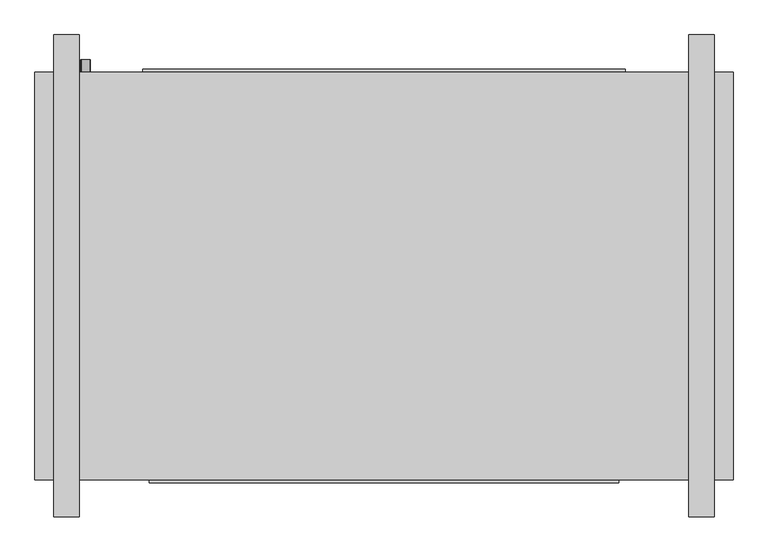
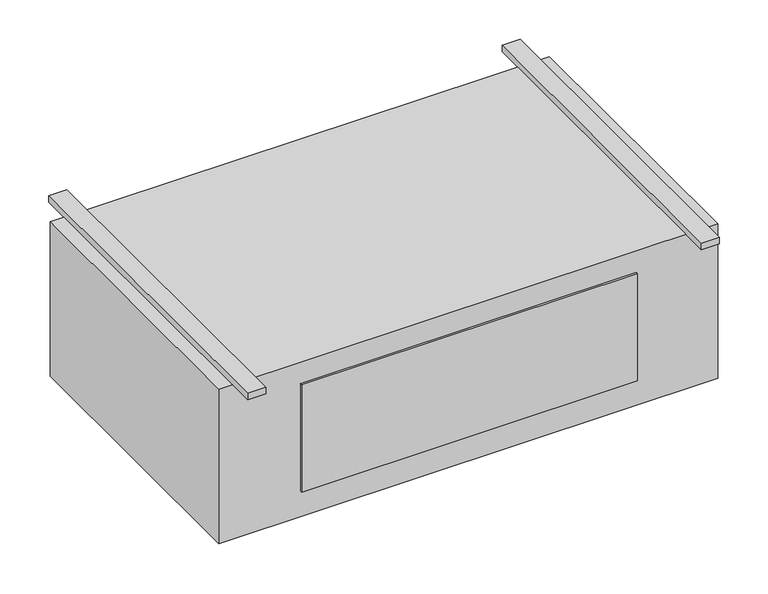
"""IFC4 building model written with IfcOpenShell, lengths in millimetres: proxy geometry, Exposed_High_Capacity_Horizontal_Cabinet_Fan_Coil_Unit_-_42DFA_-_CARRIER_-_2-Pipe_Cool-EHeat_LH_2022 : Size 16 - 277v/60Hz/1Ph - 6 Row 12.0kW."""

from ifc_helpers import new_model, si_unit, point, frame, frame_2d, origin, origin_with_axes, place, context, project, spatial, polyline, circle_curve, trimmed, segment, composite_curve, outline, extrude, source, transform, mapped, element, save


def mechanical_equipment_579c9824(model_context):
    return source(origin(), model_context, "Body", "SweptSolid", [
        extrude(outline(composite_curve([segment(trimmed(circle_curve(frame_2d((-406.4, -444.5)), 9.525), [point((-406.4, -454.025))], [point((-406.4, -434.975))], False, "CARTESIAN"), True, "CONTINUOUS"), segment(trimmed(circle_curve(frame_2d((-406.4, -444.5)), 9.525), [point((-406.4, -434.975))], [point((-406.4, -454.025))], False, "CARTESIAN"), True, "CONTINUOUS")], self_intersect=False)), frame((0.0, 169.8625, 0.0), z_axis=(0.0, 1.0, 0.0), x_axis=(0.0, 0.0, 1.0)), (0.0, 0.0, 1.0), 25.4),
        extrude(outline(composite_curve([segment(trimmed(circle_curve(frame_2d((-330.2, -444.5)), 7.9375), [point((-330.2, -452.4375))], [point((-330.2, -436.5625))], False, "CARTESIAN"), True, "CONTINUOUS"), segment(trimmed(circle_curve(frame_2d((-330.2, -444.5)), 7.9375), [point((-330.2, -436.5625))], [point((-330.2, -452.4375))], False, "CARTESIAN"), True, "CONTINUOUS")], self_intersect=False)), frame((0.0, 169.8625, 0.0), z_axis=(0.0, 1.0, 0.0), x_axis=(0.0, 0.0, 1.0)), (0.0, 0.0, 1.0), 25.4),
        extrude(outline(composite_curve([segment(trimmed(circle_curve(frame_2d((-254.0, -444.5)), 7.9375), [point((-254.0, -452.4375))], [point((-254.0, -436.5625))], False, "CARTESIAN"), True, "CONTINUOUS"), segment(trimmed(circle_curve(frame_2d((-254.0, -444.5)), 7.9375), [point((-254.0, -436.5625))], [point((-254.0, -452.4375))], False, "CARTESIAN"), True, "CONTINUOUS")], self_intersect=False)), frame((0.0, 169.8625, 0.0), z_axis=(0.0, 1.0, 0.0), x_axis=(0.0, 0.0, 1.0)), (0.0, 0.0, 1.0), 25.4),
        extrude(outline(polyline([(850.9, 169.8625), (850.9, -646.1125), (-546.1, -646.1125), (-546.1, 169.8625), (850.9, 169.8625)])), frame((0.0, 0.0, -457.2), z_axis=(0.0, 0.0, 1.0), x_axis=(1.0, 0.0, 0.0)), (0.0, 0.0, 1.0), 457.2),
        extrude(outline(polyline([(-330.2, 176.2125), (635.0, 176.2125), (635.0, 169.8625), (-330.2, 169.8625), (-330.2, 176.2125)])), frame((0.0, 0.0, -381.0), z_axis=(0.0, 0.0, 1.0), x_axis=(1.0, 0.0, 0.0)), (0.0, 0.0, 1.0), 355.6),
        extrude(outline(polyline([(-457.2, 244.475), (-457.2, -720.725), (-508.0, -720.725), (-508.0, 244.475), (-457.2, 244.475)])), origin_with_axes(), (0.0, 0.0, 1.0), 19.05),
        extrude(outline(polyline([(812.8, 244.475), (812.8, -720.725), (762.0, -720.725), (762.0, 244.475), (812.8, 244.475)])), origin_with_axes(), (0.0, 0.0, 1.0), 19.05),
        extrude(outline(polyline([(622.3, -652.4625), (-317.5, -652.4625), (-317.5, -646.1125), (622.3, -646.1125), (622.3, -652.4625)])), frame((0.0, 0.0, -381.0), z_axis=(0.0, 0.0, 1.0), x_axis=(1.0, 0.0, 0.0)), (0.0, 0.0, 1.0), 317.5),
    ])


if __name__ == "__main__":
    model = new_model("IFC4")
    model_context = context("Model", 3, world=origin())
    ifc_project = project(units=[si_unit("LENGTHUNIT", "METRE", prefix="MILLI")], contexts=[model_context])
    site = spatial("IfcSite", under=ifc_project)
    building = spatial("IfcBuilding", under=site)
    placement = place(None, origin())
    mechanical_equipment_shape = mechanical_equipment_579c9824(model_context)
    element("IfcBuildingElementProxy", 1, Name="Exposed_High_Capacity_Horizontal_Cabinet_Fan_Coil_Unit_-_42DFA_-_CARRIER_-_2-Pipe_Cool-EHeat_LH_2022 : Size 16 - 277v/60Hz/1Ph - 6 Row 12.0kW", ObjectType="Exposed_High_Capacity_Horizontal_Cabinet_Fan_Coil_Unit_-_42DFA_-_CARRIER_-_2-Pipe_Cool-EHeat_LH_2022 : Size 16 - 277v/60Hz/1Ph - 6 Row 12.0kW", at=placement, inside=building, context=model_context, shape_type="MappedRepresentation", body=[
        mapped(mechanical_equipment_shape, transform((0.0, 0.0, 0.0), x_axis=(1.0, 0.0, 0.0), y_axis=(0.0, 1.0, 0.0), z_axis=(0.0, 0.0, 1.0))),
    ])
    save(model, "model.ifc")
